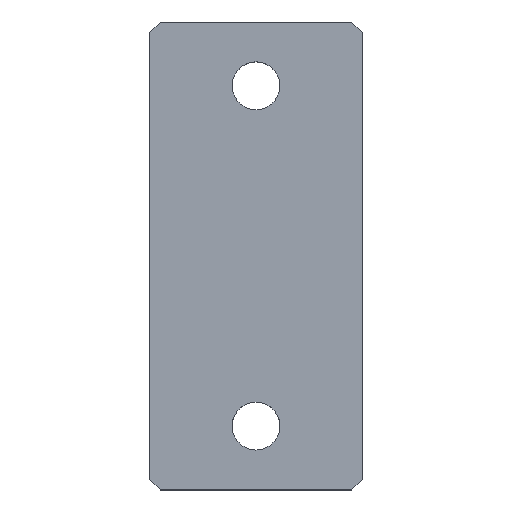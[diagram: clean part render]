
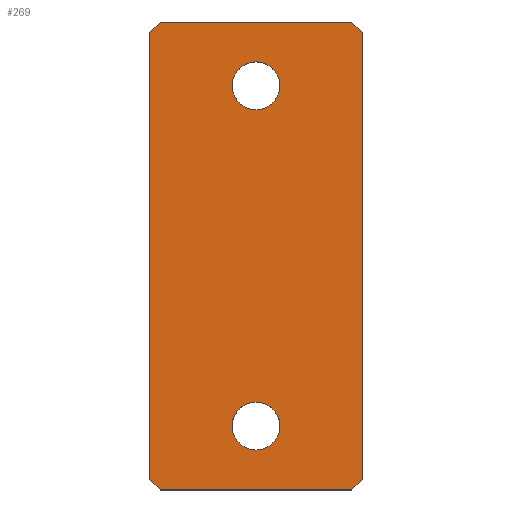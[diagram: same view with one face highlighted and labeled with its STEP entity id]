
A CAD part, top view. The second image highlights one B-rep face of the part: STEP entity #269.
In plain terms, the highlighted planar face has unit normal (0, 0, 1).
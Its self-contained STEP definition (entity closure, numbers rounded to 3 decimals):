
#1 = DIRECTION ( 'NONE',  ( -0.707, 0.707, 0. ) ) ;
#8 = VERTEX_POINT ( 'NONE', #281 ) ;
#12 = DIRECTION ( 'NONE',  ( -0.707, -0.707, 0. ) ) ;
#14 = VERTEX_POINT ( 'NONE', #316 ) ;
#22 = CARTESIAN_POINT ( 'NONE',  ( -9., 22., 5. ) ) ;
#23 = CARTESIAN_POINT ( 'NONE',  ( 0., 16., 5. ) ) ;
#26 = AXIS2_PLACEMENT_3D ( 'NONE', #23, #174, #378 ) ;
#32 = EDGE_CURVE ( 'NONE', #320, #14, #397, .T. ) ;
#33 = DIRECTION ( 'NONE',  ( 0., 1., 0. ) ) ;
#39 = CARTESIAN_POINT ( 'NONE',  ( 10., 21., 5. ) ) ;
#42 = ORIENTED_EDGE ( 'NONE', *, *, #438, .T. ) ;
#52 = CARTESIAN_POINT ( 'NONE',  ( 9., -22., 5. ) ) ;
#57 = CARTESIAN_POINT ( 'NONE',  ( 10., -21., 5. ) ) ;
#66 = VECTOR ( 'NONE', #68, 1000. ) ;
#68 = DIRECTION ( 'NONE',  ( 0.707, -0.707, 0. ) ) ;
#74 = EDGE_CURVE ( 'NONE', #309, #439, #473, .T. ) ;
#81 = FACE_BOUND ( 'NONE', #303, .T. ) ;
#85 = ORIENTED_EDGE ( 'NONE', *, *, #392, .T. ) ;
#86 = AXIS2_PLACEMENT_3D ( 'NONE', #490, #283, #445 ) ;
#93 = VERTEX_POINT ( 'NONE', #367 ) ;
#97 = VECTOR ( 'NONE', #12, 1000. ) ;
#100 = CARTESIAN_POINT ( 'NONE',  ( -9., -22., 5. ) ) ;
#102 = CARTESIAN_POINT ( 'NONE',  ( -10., -21., 5. ) ) ;
#108 = PLANE ( 'NONE',  #362 ) ;
#110 = CARTESIAN_POINT ( 'NONE',  ( 2.25, -16., 5. ) ) ;
#114 = DIRECTION ( 'NONE',  ( 1., 0., 0. ) ) ;
#119 = VECTOR ( 'NONE', #132, 1000. ) ;
#124 = VERTEX_POINT ( 'NONE', #100 ) ;
#127 = LINE ( 'NONE', #207, #483 ) ;
#130 = CARTESIAN_POINT ( 'NONE',  ( -10., -21., 5. ) ) ;
#132 = DIRECTION ( 'NONE',  ( 0.707, 0.707, 0. ) ) ;
#145 = CARTESIAN_POINT ( 'NONE',  ( -10., 21., 5. ) ) ;
#148 = ORIENTED_EDGE ( 'NONE', *, *, #437, .F. ) ;
#154 = FACE_BOUND ( 'NONE', #237, .T. ) ;
#165 = DIRECTION ( 'NONE',  ( 1., 0., 0. ) ) ;
#168 = LINE ( 'NONE', #52, #119 ) ;
#172 = EDGE_CURVE ( 'NONE', #515, #124, #461, .T. ) ;
#174 = DIRECTION ( 'NONE',  ( 0., 0., 1. ) ) ;
#178 = CARTESIAN_POINT ( 'NONE',  ( 0., -16., 5. ) ) ;
#182 = CARTESIAN_POINT ( 'NONE',  ( 10., -21., 5. ) ) ;
#188 = ORIENTED_EDGE ( 'NONE', *, *, #172, .T. ) ;
#189 = DIRECTION ( 'NONE',  ( 0., -1., 0. ) ) ;
#191 = VECTOR ( 'NONE', #1, 1000. ) ;
#192 = CARTESIAN_POINT ( 'NONE',  ( 10., 21., 5. ) ) ;
#196 = VERTEX_POINT ( 'NONE', #457 ) ;
#204 = ORIENTED_EDGE ( 'NONE', *, *, #74, .F. ) ;
#207 = CARTESIAN_POINT ( 'NONE',  ( -9., -22., 5. ) ) ;
#210 = VECTOR ( 'NONE', #33, 1000. ) ;
#227 = DIRECTION ( 'NONE',  ( -1., 0., 0. ) ) ;
#228 = ORIENTED_EDGE ( 'NONE', *, *, #324, .T. ) ;
#230 = ORIENTED_EDGE ( 'NONE', *, *, #479, .F. ) ;
#231 = CARTESIAN_POINT ( 'NONE',  ( -10., 21., 5. ) ) ;
#234 = CARTESIAN_POINT ( 'NONE',  ( 9., 22., 5. ) ) ;
#235 = CIRCLE ( 'NONE', #86, 2.25 ) ;
#236 = VERTEX_POINT ( 'NONE', #57 ) ;
#237 = EDGE_LOOP ( 'NONE', ( #148, #204 ) ) ;
#241 = AXIS2_PLACEMENT_3D ( 'NONE', #178, #463, #295 ) ;
#245 = EDGE_CURVE ( 'NONE', #358, #515, #516, .T. ) ;
#259 = VECTOR ( 'NONE', #227, 1000. ) ;
#262 = LINE ( 'NONE', #234, #259 ) ;
#269 = ADVANCED_FACE ( 'NONE', ( #154, #477, #81 ), #108, .T. ) ;
#271 = LINE ( 'NONE', #182, #210 ) ;
#272 = VERTEX_POINT ( 'NONE', #192 ) ;
#273 = EDGE_CURVE ( 'NONE', #272, #8, #428, .T. ) ;
#281 = CARTESIAN_POINT ( 'NONE',  ( 9., 22., 5. ) ) ;
#283 = DIRECTION ( 'NONE',  ( 0., 0., 1. ) ) ;
#284 = ORIENTED_EDGE ( 'NONE', *, *, #32, .F. ) ;
#295 = DIRECTION ( 'NONE',  ( 1., 0., 0. ) ) ;
#303 = EDGE_LOOP ( 'NONE', ( #284, #230 ) ) ;
#309 = VERTEX_POINT ( 'NONE', #110 ) ;
#310 = CARTESIAN_POINT ( 'NONE',  ( 0., 0., 5. ) ) ;
#312 = EDGE_CURVE ( 'NONE', #8, #93, #262, .T. ) ;
#316 = CARTESIAN_POINT ( 'NONE',  ( 2.25, 16., 5. ) ) ;
#320 = VERTEX_POINT ( 'NONE', #420 ) ;
#324 = EDGE_CURVE ( 'NONE', #236, #272, #271, .T. ) ;
#327 = LINE ( 'NONE', #22, #97 ) ;
#331 = CARTESIAN_POINT ( 'NONE',  ( -2.25, -16., 5. ) ) ;
#337 = DIRECTION ( 'NONE',  ( 0., 0., 1. ) ) ;
#346 = ORIENTED_EDGE ( 'NONE', *, *, #245, .T. ) ;
#349 = ORIENTED_EDGE ( 'NONE', *, *, #312, .T. ) ;
#352 = CIRCLE ( 'NONE', #474, 2.25 ) ;
#358 = VERTEX_POINT ( 'NONE', #231 ) ;
#362 = AXIS2_PLACEMENT_3D ( 'NONE', #310, #337, #114 ) ;
#364 = ORIENTED_EDGE ( 'NONE', *, *, #273, .T. ) ;
#367 = CARTESIAN_POINT ( 'NONE',  ( -9., 22., 5. ) ) ;
#378 = DIRECTION ( 'NONE',  ( 1., 0., 0. ) ) ;
#390 = ORIENTED_EDGE ( 'NONE', *, *, #419, .T. ) ;
#392 = EDGE_CURVE ( 'NONE', #196, #236, #168, .T. ) ;
#397 = CIRCLE ( 'NONE', #26, 2.25 ) ;
#415 = CARTESIAN_POINT ( 'NONE',  ( 0., -16., 5. ) ) ;
#417 = VECTOR ( 'NONE', #189, 1000. ) ;
#419 = EDGE_CURVE ( 'NONE', #93, #358, #327, .T. ) ;
#420 = CARTESIAN_POINT ( 'NONE',  ( -2.25, 16., 5. ) ) ;
#424 = EDGE_LOOP ( 'NONE', ( #188, #42, #85, #228, #364, #349, #390, #346 ) ) ;
#428 = LINE ( 'NONE', #39, #191 ) ;
#437 = EDGE_CURVE ( 'NONE', #439, #309, #352, .T. ) ;
#438 = EDGE_CURVE ( 'NONE', #124, #196, #127, .T. ) ;
#439 = VERTEX_POINT ( 'NONE', #331 ) ;
#445 = DIRECTION ( 'NONE',  ( 1., 0., 0. ) ) ;
#456 = DIRECTION ( 'NONE',  ( 1., 0., 0. ) ) ;
#457 = CARTESIAN_POINT ( 'NONE',  ( 9., -22., 5. ) ) ;
#460 = DIRECTION ( 'NONE',  ( 0., 0., 1. ) ) ;
#461 = LINE ( 'NONE', #102, #66 ) ;
#463 = DIRECTION ( 'NONE',  ( 0., 0., 1. ) ) ;
#473 = CIRCLE ( 'NONE', #241, 2.25 ) ;
#474 = AXIS2_PLACEMENT_3D ( 'NONE', #415, #460, #165 ) ;
#477 = FACE_OUTER_BOUND ( 'NONE', #424, .T. ) ;
#479 = EDGE_CURVE ( 'NONE', #14, #320, #235, .T. ) ;
#483 = VECTOR ( 'NONE', #456, 1000. ) ;
#490 = CARTESIAN_POINT ( 'NONE',  ( 0., 16., 5. ) ) ;
#515 = VERTEX_POINT ( 'NONE', #130 ) ;
#516 = LINE ( 'NONE', #145, #417 ) ;
